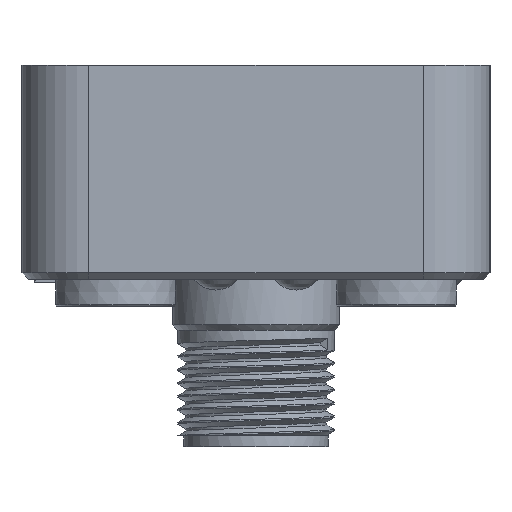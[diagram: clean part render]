
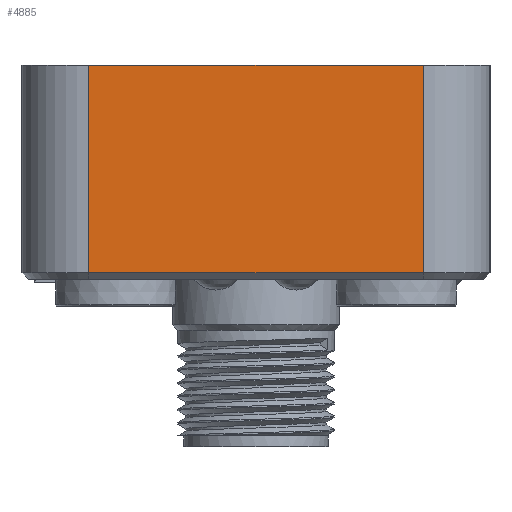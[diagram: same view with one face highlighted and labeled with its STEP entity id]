
A CAD part, left-side view. The second image highlights one B-rep face of the part: STEP entity #4885.
In plain terms, the highlighted planar face has unit normal (-1, 0, 0).
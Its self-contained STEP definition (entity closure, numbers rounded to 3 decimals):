
#1744=LINE('',#28848,#3375);
#1841=LINE('',#29067,#3472);
#1842=LINE('',#29069,#3473);
#1843=LINE('',#29071,#3474);
#3375=VECTOR('',#22963,1.);
#3472=VECTOR('',#23134,1.);
#3473=VECTOR('',#23135,1.);
#3474=VECTOR('',#23136,1.);
#4885=ADVANCED_FACE('',(#6902),#6138,.F.);
#6138=PLANE('',#20690);
#6902=FACE_OUTER_BOUND('',#7829,.T.);
#7829=EDGE_LOOP('',(#10075,#10076,#10077,#10078));
#10075=ORIENTED_EDGE('',*,*,#17349,.T.);
#10076=ORIENTED_EDGE('',*,*,#17350,.T.);
#10077=ORIENTED_EDGE('',*,*,#17351,.T.);
#10078=ORIENTED_EDGE('',*,*,#17229,.T.);
#15277=VERTEX_POINT('',#28847);
#15278=VERTEX_POINT('',#28849);
#15363=VERTEX_POINT('',#29068);
#15364=VERTEX_POINT('',#29070);
#17229=EDGE_CURVE('',#15278,#15277,#1744,.T.);
#17349=EDGE_CURVE('',#15277,#15363,#1841,.T.);
#17350=EDGE_CURVE('',#15363,#15364,#1842,.T.);
#17351=EDGE_CURVE('',#15364,#15278,#1843,.T.);
#20690=AXIS2_PLACEMENT_3D('',#29072,#23137,#23138);
#22963=DIRECTION('',(0.,1.,0.));
#23134=DIRECTION('',(0.,0.,-1.));
#23135=DIRECTION('',(0.,-1.,0.));
#23136=DIRECTION('',(0.,0.,1.));
#23137=DIRECTION('',(1.,0.,0.));
#23138=DIRECTION('',(0.,-1.,0.));
#28847=CARTESIAN_POINT('',(37.,30.,16.));
#28848=CARTESIAN_POINT('',(37.,0.,16.));
#28849=CARTESIAN_POINT('',(37.,5.,16.));
#29067=CARTESIAN_POINT('',(37.,30.,23.));
#29068=CARTESIAN_POINT('',(37.,30.,0.5));
#29069=CARTESIAN_POINT('',(37.,42.1,0.5));
#29070=CARTESIAN_POINT('',(37.,5.,0.5));
#29071=CARTESIAN_POINT('',(37.,5.,23.));
#29072=CARTESIAN_POINT('',(37.,42.1,23.));
